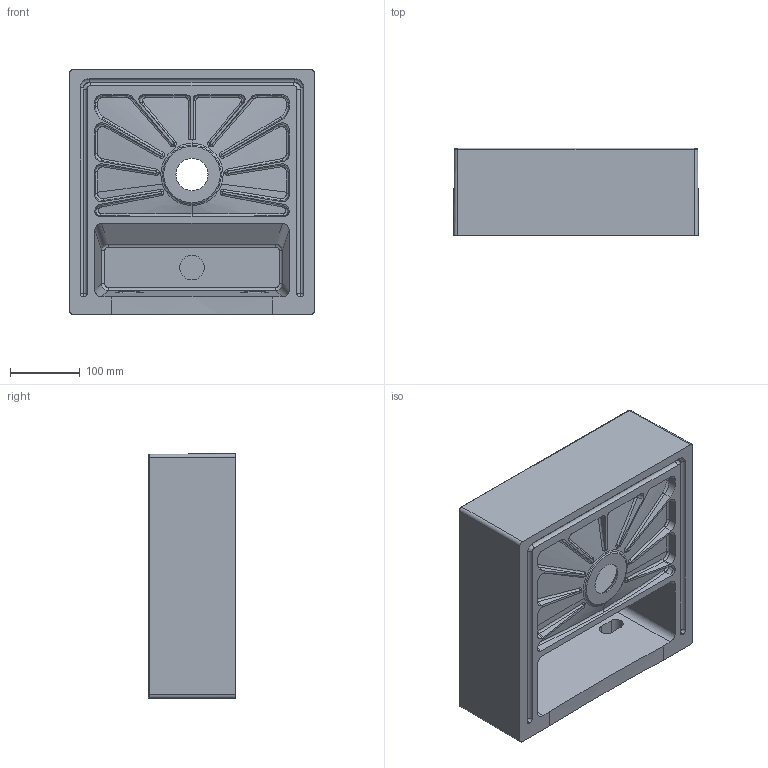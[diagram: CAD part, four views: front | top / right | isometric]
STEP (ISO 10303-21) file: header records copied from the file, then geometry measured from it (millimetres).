
FILE_DESCRIPTION (( 'STEP AP203' ), '1' );
FILE_NAME ('ELLP035350Q0.STEP', '2019-02-01T09:45:09', ( '' ), ( '' ), 'SwSTEP 2.0', 'SolidWorks 2019', '' );
FILE_SCHEMA (( 'CONFIG_CONTROL_DESIGN' ));
Length unit declared in the file: millimetre
Products named in the file (1): ELLP035350Q0
Bounding box: 350 x 125 x 350 mm (x, y, z)
Volume: 5683007.3 mm3; surface area: 579578.2 mm2
Topology: 1 solids, 1 shells, 289 faces, 724 edges, 437 vertices
Faces by surface type: bspline 136, cylinder 67, plane 55, cone 13, torus 10, sphere 8
Entity records: 21716 total; most frequent: CARTESIAN_POINT 15938, ORIENTED_EDGE 1440, DIRECTION 884, EDGE_CURVE 720, VERTEX_POINT 437, AXIS2_PLACEMENT_3D 353, EDGE_LOOP 299, FACE_OUTER_BOUND 289
